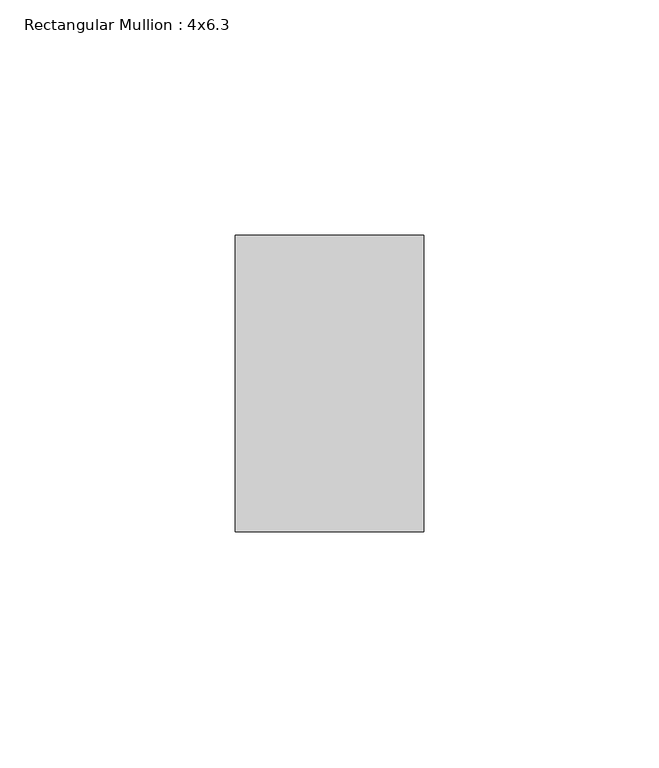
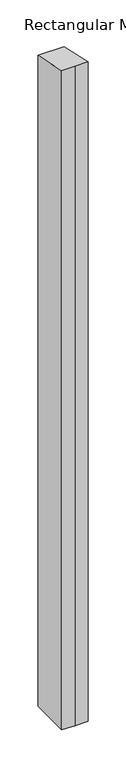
"""IFC4 building model written with IfcOpenShell, lengths in millimetres: member geometry, Rectangular Mullion : 4x6.3."""

from ifc_helpers import new_model, si_unit, origin, place, context, project, spatial, faceted_brep, source, transform, mapped, element, save


def rectangular_mullion_4x6_3_1be6e9a4(model_context):
    return source(origin(), model_context, "Body", "Brep", [
        faceted_brep([(-20.0, 20.0, -1062.5812769), (-20.0, 83.0, -1062.5812769), (20.0, 83.0, -1062.5812769), (20.0, 20.0, -1062.5812769), (0.0, 20.0, -1062.5812769), (0.0, 20.0, -4.3995804), (-20.0, 20.0, -4.3995804), (20.0, 20.0, -4.3995804), (20.0, 83.0, -18.2582585), (-20.0, 83.0, -18.2582585)], [[[0, 1, 2, 3, 4]], [[5, 6, 0, 4]], [[7, 5, 4, 3]], [[8, 7, 3, 2]], [[9, 8, 2, 1]], [[6, 9, 1, 0]], [[6, 5, 7, 8, 9]]]),
    ])


if __name__ == "__main__":
    model = new_model("IFC4")
    model_context = context("Model", 3, world=origin())
    ifc_project = project(units=[si_unit("LENGTHUNIT", "METRE", prefix="MILLI")], contexts=[model_context])
    site = spatial("IfcSite", under=ifc_project)
    building = spatial("IfcBuilding", under=site)
    placement = place(None, origin())
    rectangular_mullion_4x6_3_shape = rectangular_mullion_4x6_3_1be6e9a4(model_context)
    element("IfcMember", 1, ObjectType="Rectangular Mullion : 4x6.3", at=placement, inside=building, context=model_context, shape_type="MappedRepresentation", body=[
        mapped(rectangular_mullion_4x6_3_shape, transform((0.0, 0.0, 0.0), x_axis=(1.0, 0.0, 0.0), y_axis=(0.0, 1.0, 0.0), z_axis=(0.0, 0.0, 1.0))),
    ])
    save(model, "model.ifc")
